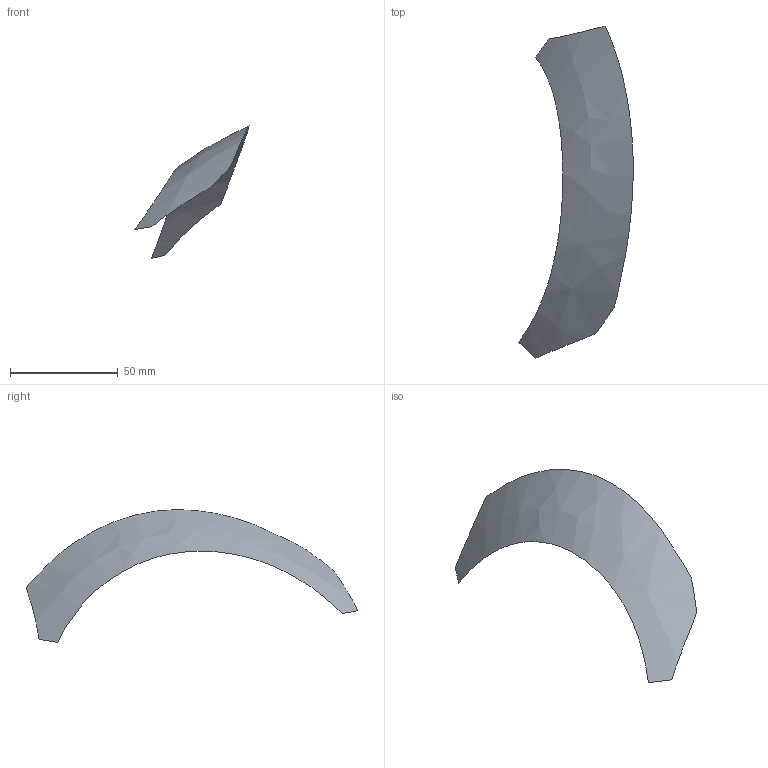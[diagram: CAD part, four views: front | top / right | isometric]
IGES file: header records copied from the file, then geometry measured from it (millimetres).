
Start section: START RECORD GO HERE
Global section: file name: s14.igs; native system: IBM CATIA IGES - CATIA SOLUTIONS V4RELEASE 1.9 REFRESH 01; preprocessor: CATIA SOLUTIONS V4RELEASE 1.9 REFRESH 01; author: cky; date: 990510.133752; units: millimetre
Bounding box: 53.11 x 154.13 x 61.63 mm (x, y, z)
Surface area: 6213 mm2 (no closed solid volume)
Topology: 0 solids, 0 shells, 1 faces, 40 edges, 40 vertices
Faces by surface type: bspline 1
